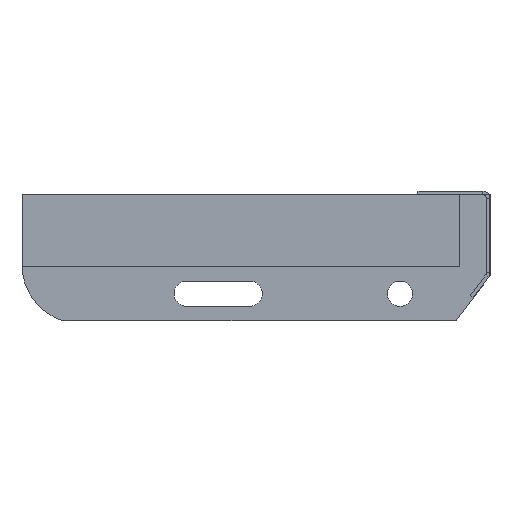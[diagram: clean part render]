
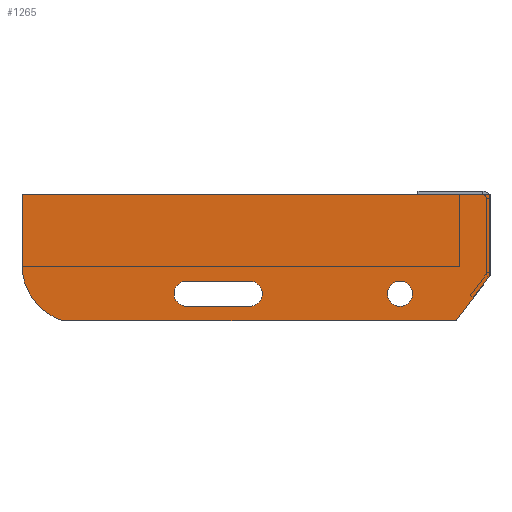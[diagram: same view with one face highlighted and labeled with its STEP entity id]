
A CAD part, left-side view. The second image highlights one B-rep face of the part: STEP entity #1265.
In plain terms, the highlighted planar face has unit normal (-1, 0, 0) as drawn and (0, 0, 1) by its records, which use the part's own axes.
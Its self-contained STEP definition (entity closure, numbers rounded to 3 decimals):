
#3 = VERTEX_POINT ( 'NONE', #1553 ) ;
#20 = VERTEX_POINT ( 'NONE', #1719 ) ;
#30 = CARTESIAN_POINT ( 'NONE',  ( -43., -55., 3. ) ) ;
#48 = ORIENTED_EDGE ( 'NONE', *, *, #1665, .F. ) ;
#91 = CARTESIAN_POINT ( 'NONE',  ( 0., 0., 3. ) ) ;
#144 = ORIENTED_EDGE ( 'NONE', *, *, #1836, .T. ) ;
#178 = CARTESIAN_POINT ( 'NONE',  ( -237.26, -70., 3. ) ) ;
#183 = VECTOR ( 'NONE', #1008, 1000. ) ;
#185 = AXIS2_PLACEMENT_3D ( 'NONE', #1821, #848, #1474 ) ;
#189 = EDGE_CURVE ( 'NONE', #1876, #563, #1490, .T. ) ;
#203 = DIRECTION ( 'NONE',  ( 1., 0., 0. ) ) ;
#211 = AXIS2_PLACEMENT_3D ( 'NONE', #1694, #298, #1538 ) ;
#233 = CARTESIAN_POINT ( 'NONE',  ( 0., 0., 3. ) ) ;
#237 = CARTESIAN_POINT ( 'NONE',  ( 0., -45., 3. ) ) ;
#287 = DIRECTION ( 'NONE',  ( 0., 0., 1. ) ) ;
#296 = DIRECTION ( 'NONE',  ( 0., 0., 1. ) ) ;
#298 = DIRECTION ( 'NONE',  ( 0., 0., 1. ) ) ;
#320 = EDGE_LOOP ( 'NONE', ( #1558, #1882 ) ) ;
#334 = EDGE_CURVE ( 'NONE', #1927, #1904, #1652, .T. ) ;
#344 = VECTOR ( 'NONE', #721, 1000. ) ;
#364 = ORIENTED_EDGE ( 'NONE', *, *, #1157, .F. ) ;
#406 = CIRCLE ( 'NONE', #1522, 7. ) ;
#440 = VECTOR ( 'NONE', #1489, 1000. ) ;
#446 = VERTEX_POINT ( 'NONE', #178 ) ;
#464 = DIRECTION ( 'NONE',  ( 0., 0., 1. ) ) ;
#479 = AXIS2_PLACEMENT_3D ( 'NONE', #620, #464, #1725 ) ;
#481 = ORIENTED_EDGE ( 'NONE', *, *, #1006, .T. ) ;
#510 = CARTESIAN_POINT ( 'NONE',  ( -260., -39., 3. ) ) ;
#524 = CARTESIAN_POINT ( 'NONE',  ( 0., 0., 3. ) ) ;
#537 = AXIS2_PLACEMENT_3D ( 'NONE', #1741, #1601, #958 ) ;
#563 = VERTEX_POINT ( 'NONE', #524 ) ;
#619 = EDGE_LOOP ( 'NONE', ( #48, #975, #1007, #364, #678 ) ) ;
#620 = CARTESIAN_POINT ( 'NONE',  ( -133.5, -55., 3. ) ) ;
#662 = EDGE_CURVE ( 'NONE', #1346, #1078, #1718, .T. ) ;
#678 = ORIENTED_EDGE ( 'NONE', *, *, #1033, .F. ) ;
#684 = CARTESIAN_POINT ( 'NONE',  ( -168.5, -62., 3. ) ) ;
#721 = DIRECTION ( 'NONE',  ( 1., 0., 0. ) ) ;
#728 = DIRECTION ( 'NONE',  ( 1., 0., 0. ) ) ;
#784 = CARTESIAN_POINT ( 'NONE',  ( -133.5, -62., 3. ) ) ;
#795 = EDGE_LOOP ( 'NONE', ( #897, #823, #1565, #481, #1524, #144 ) ) ;
#804 = CARTESIAN_POINT ( 'NONE',  ( -168.5, -48., 3. ) ) ;
#823 = ORIENTED_EDGE ( 'NONE', *, *, #1342, .T. ) ;
#848 = DIRECTION ( 'NONE',  ( 0., 0., 1. ) ) ;
#854 = CARTESIAN_POINT ( 'NONE',  ( -175.5, -55., 3. ) ) ;
#857 = CARTESIAN_POINT ( 'NONE',  ( -168.5, -55., 3. ) ) ;
#894 = CARTESIAN_POINT ( 'NONE',  ( 0., -45., 3. ) ) ;
#897 = ORIENTED_EDGE ( 'NONE', *, *, #189, .T. ) ;
#898 = AXIS2_PLACEMENT_3D ( 'NONE', #857, #1948, #728 ) ;
#918 = EDGE_CURVE ( 'NONE', #1904, #1927, #406, .T. ) ;
#958 = DIRECTION ( 'NONE',  ( 1., 0., 0. ) ) ;
#975 = ORIENTED_EDGE ( 'NONE', *, *, #662, .F. ) ;
#996 = AXIS2_PLACEMENT_3D ( 'NONE', #1246, #287, #1092 ) ;
#1006 = EDGE_CURVE ( 'NONE', #1113, #446, #1949, .T. ) ;
#1007 = ORIENTED_EDGE ( 'NONE', *, *, #1182, .F. ) ;
#1008 = DIRECTION ( 'NONE',  ( 0., -1., 0. ) ) ;
#1021 = CARTESIAN_POINT ( 'NONE',  ( -57., -55., 3. ) ) ;
#1025 = CIRCLE ( 'NONE', #479, 7. ) ;
#1033 = EDGE_CURVE ( 'NONE', #2007, #20, #1025, .T. ) ;
#1040 = FACE_OUTER_BOUND ( 'NONE', #795, .T. ) ;
#1078 = VERTEX_POINT ( 'NONE', #1301 ) ;
#1092 = DIRECTION ( 'NONE',  ( 1., 0., 0. ) ) ;
#1098 = VECTOR ( 'NONE', #203, 1000. ) ;
#1113 = VERTEX_POINT ( 'NONE', #510 ) ;
#1157 = EDGE_CURVE ( 'NONE', #20, #1480, #1889, .T. ) ;
#1182 = EDGE_CURVE ( 'NONE', #1480, #1346, #1555, .T. ) ;
#1195 = VERTEX_POINT ( 'NONE', #1905 ) ;
#1246 = CARTESIAN_POINT ( 'NONE',  ( -227.5, -39., 3. ) ) ;
#1265 = ADVANCED_FACE ( 'NONE', ( #1040, #1514, #1963 ), #1328, .T. ) ;
#1273 = DIRECTION ( 'NONE',  ( -1., 0., 0. ) ) ;
#1280 = CARTESIAN_POINT ( 'NONE',  ( -168.5, -48., 3. ) ) ;
#1286 = EDGE_CURVE ( 'NONE', #1195, #1113, #1956, .T. ) ;
#1301 = CARTESIAN_POINT ( 'NONE',  ( -168.5, -62., 3. ) ) ;
#1321 = VECTOR ( 'NONE', #1646, 1000. ) ;
#1328 = PLANE ( 'NONE',  #185 ) ;
#1342 = EDGE_CURVE ( 'NONE', #563, #1195, #1637, .T. ) ;
#1346 = VERTEX_POINT ( 'NONE', #854 ) ;
#1427 = VECTOR ( 'NONE', #1273, 1000. ) ;
#1460 = LINE ( 'NONE', #684, #1098 ) ;
#1474 = DIRECTION ( 'NONE',  ( 1., 0., 0. ) ) ;
#1480 = VERTEX_POINT ( 'NONE', #804 ) ;
#1489 = DIRECTION ( 'NONE',  ( 0.602, 0.799, 0. ) ) ;
#1490 = LINE ( 'NONE', #91, #1914 ) ;
#1501 = CARTESIAN_POINT ( 'NONE',  ( -18.839, -70., 3. ) ) ;
#1514 = FACE_BOUND ( 'NONE', #320, .T. ) ;
#1522 = AXIS2_PLACEMENT_3D ( 'NONE', #1680, #296, #1868 ) ;
#1524 = ORIENTED_EDGE ( 'NONE', *, *, #1912, .T. ) ;
#1538 = DIRECTION ( 'NONE',  ( 1., 0., 0. ) ) ;
#1553 = CARTESIAN_POINT ( 'NONE',  ( -18.839, -70., 3. ) ) ;
#1555 = CIRCLE ( 'NONE', #537, 7. ) ;
#1558 = ORIENTED_EDGE ( 'NONE', *, *, #918, .F. ) ;
#1565 = ORIENTED_EDGE ( 'NONE', *, *, #1286, .T. ) ;
#1601 = DIRECTION ( 'NONE',  ( 0., 0., 1. ) ) ;
#1637 = LINE ( 'NONE', #233, #1321 ) ;
#1646 = DIRECTION ( 'NONE',  ( -1., 0., 0. ) ) ;
#1652 = CIRCLE ( 'NONE', #211, 7. ) ;
#1665 = EDGE_CURVE ( 'NONE', #1078, #2007, #1460, .T. ) ;
#1680 = CARTESIAN_POINT ( 'NONE',  ( -50., -55., 3. ) ) ;
#1694 = CARTESIAN_POINT ( 'NONE',  ( -50., -55., 3. ) ) ;
#1718 = CIRCLE ( 'NONE', #898, 7. ) ;
#1719 = CARTESIAN_POINT ( 'NONE',  ( -133.5, -48., 3. ) ) ;
#1725 = DIRECTION ( 'NONE',  ( 1., 0., 0. ) ) ;
#1741 = CARTESIAN_POINT ( 'NONE',  ( -168.5, -55., 3. ) ) ;
#1799 = CARTESIAN_POINT ( 'NONE',  ( -260., 0., 3. ) ) ;
#1804 = LINE ( 'NONE', #1501, #344 ) ;
#1805 = DIRECTION ( 'NONE',  ( 0., 1., 0. ) ) ;
#1821 = CARTESIAN_POINT ( 'NONE',  ( -227.5, -39., 3. ) ) ;
#1836 = EDGE_CURVE ( 'NONE', #3, #1876, #1848, .T. ) ;
#1848 = LINE ( 'NONE', #894, #440 ) ;
#1868 = DIRECTION ( 'NONE',  ( 1., 0., 0. ) ) ;
#1876 = VERTEX_POINT ( 'NONE', #237 ) ;
#1882 = ORIENTED_EDGE ( 'NONE', *, *, #334, .F. ) ;
#1889 = LINE ( 'NONE', #1280, #1427 ) ;
#1904 = VERTEX_POINT ( 'NONE', #1021 ) ;
#1905 = CARTESIAN_POINT ( 'NONE',  ( -260., 0., 3. ) ) ;
#1912 = EDGE_CURVE ( 'NONE', #446, #3, #1804, .T. ) ;
#1914 = VECTOR ( 'NONE', #1805, 1000. ) ;
#1927 = VERTEX_POINT ( 'NONE', #30 ) ;
#1948 = DIRECTION ( 'NONE',  ( 0., 0., 1. ) ) ;
#1949 = CIRCLE ( 'NONE', #996, 32.5 ) ;
#1956 = LINE ( 'NONE', #1799, #183 ) ;
#1963 = FACE_BOUND ( 'NONE', #619, .T. ) ;
#2007 = VERTEX_POINT ( 'NONE', #784 ) ;
